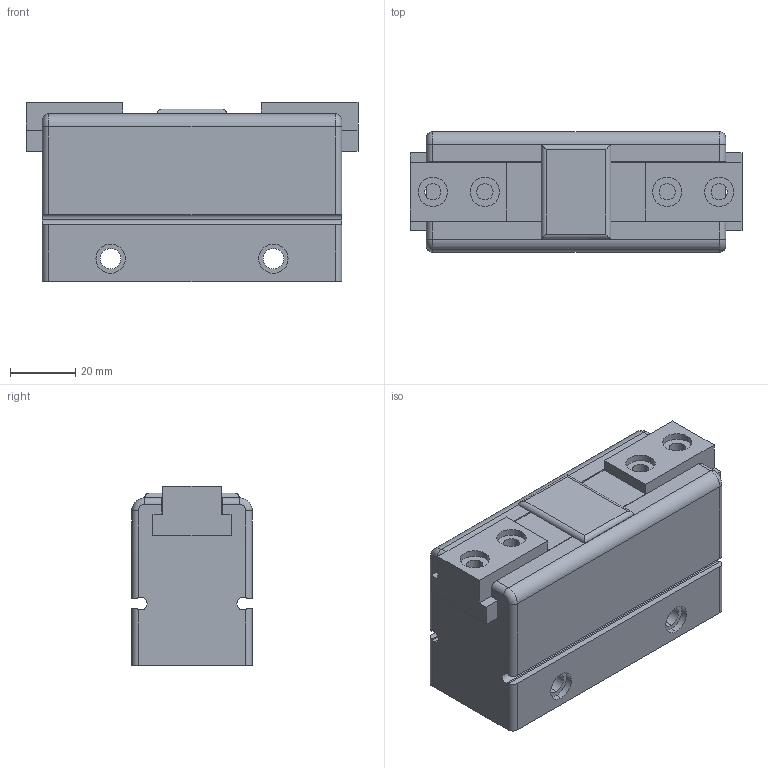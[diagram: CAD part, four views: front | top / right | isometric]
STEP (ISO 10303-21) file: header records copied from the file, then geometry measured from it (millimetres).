
FILE_DESCRIPTION (( 'STEP AP214' ), '1' );
FILE_NAME ('7653.STEP', '2024-10-17T12:34:03', ( '' ), ( '' ), 'SwSTEP 2.0', 'SolidWorks 2022', '' );
FILE_SCHEMA (( 'AUTOMOTIVE_DESIGN' ));
Length unit declared in the file: millimetre
Products named in the file (3): 7653; 6760-6764 SZ Jaw_6762 Jaw; 6760-6764 SZ Gripper Body_6762 Body
Assembly tree (3 placements, depth 2):
  7653
    6760-6764 SZ Gripper Body_6762 Body
    6760-6764 SZ Jaw_6762 Jaw  x2
Bounding box: 102 x 37 x 55 mm (x, y, z)
Volume: 168387.7 mm3; surface area: 36380.4 mm2
Topology: 6 solids, 6 shells, 188 faces, 454 edges, 286 vertices
Faces by surface type: plane 86, cylinder 78, cone 20, torus 4
Entity records: 5001 total; most frequent: DIRECTION 876, CARTESIAN_POINT 822, ORIENTED_EDGE 776, EDGE_CURVE 388, AXIS2_PLACEMENT_3D 320, VERTEX_POINT 250, VECTOR 236, LINE 236
